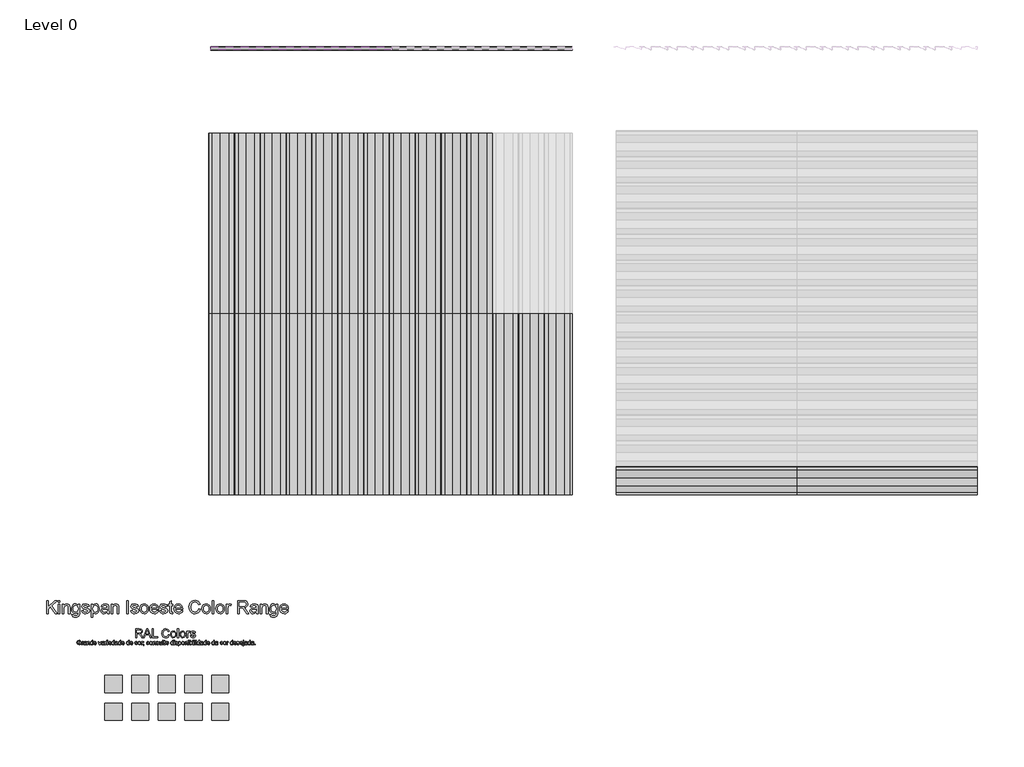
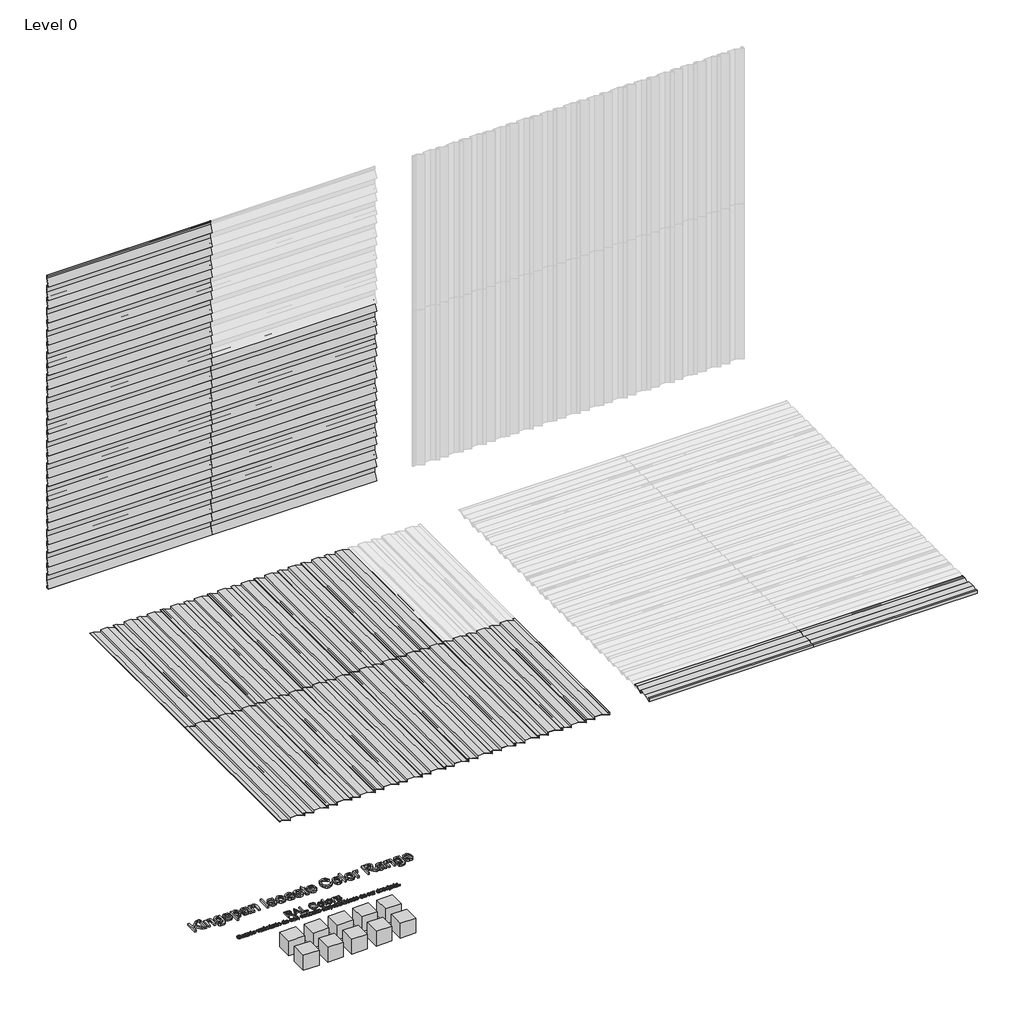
# One storey, part 1 of 2: 60 proxies.
"""IFC4 building model written with IfcOpenShell, lengths in millimetres."""

from ifc_helpers import new_model, si_unit, origin, place, context, project, spatial, transform, mapped, element, save
from components import proxy_32_ks_iso_colour_range_8220f766, proxy_32_ks_iso_colour_range_06d69407, ks_colour_sample_ks_colour_sample_0243efec, ps4_0_standard_panel_ns_dd7b3ee9, ps4_0_standard_panel_ns_3b503408

model = new_model("IFC4")

# Units and contexts
model_context = context("Model", 3, world=origin())
ifc_project = project(units=[si_unit("LENGTHUNIT", "METRE", prefix="MILLI")], contexts=[model_context])

# Site, building, storey
site = spatial("IfcSite", under=ifc_project)
building = spatial("IfcBuilding", under=site)
storey = spatial("IfcBuildingStorey", under=building, Name="Level 0", Elevation=0.0)

# Proxies
placement = place(None, origin())
proxy_32_ks_iso_colour_range_shape = proxy_32_ks_iso_colour_range_8220f766(model_context)
proxy_32_ks_iso_colour_range_2_shape = proxy_32_ks_iso_colour_range_06d69407(model_context)
element("IfcBuildingElementProxy", 1, Name="32-KS-ISO-Colour Range : Kingspan Isoeste Color Range", ObjectType="32-KS-ISO-Colour Range : Kingspan Isoeste Color Range", at=placement, inside=storey, context=model_context, shape_type="MappedRepresentation", body=[
    mapped(proxy_32_ks_iso_colour_range_shape, transform((-3929.8390717, -2223.0925896, 0.0), x_axis=(1.0, 0.0, 0.0), y_axis=(0.0, 1.0, 0.0), z_axis=(0.0, 0.0, 1.0))),
    mapped(proxy_32_ks_iso_colour_range_2_shape, transform((-3929.8390717, -2223.0925896, 0.0), x_axis=(1.0, 0.0, 0.0), y_axis=(0.0, 1.0, 0.0), z_axis=(0.0, 0.0, 1.0))),
])
ks_colour_sample_ks_colour_sample_shape = ks_colour_sample_ks_colour_sample_0243efec(model_context)
element("IfcBuildingElementProxy", 2, Name="KS_Colour Sample : KS_Colour Sample", ObjectType="KS_Colour Sample : KS_Colour Sample", at=placement, inside=storey, context=model_context, shape_type="MappedRepresentation", body=[
    mapped(ks_colour_sample_ks_colour_sample_shape, transform((-3309.8390717, -2663.0925896, 0.0), x_axis=(1.0, 0.0, 0.0), y_axis=(0.0, 1.0, 0.0), z_axis=(0.0, 0.0, 1.0))),
])
element("IfcBuildingElementProxy", 3, Name="KS_Colour Sample : KS_Colour Sample", ObjectType="KS_Colour Sample : KS_Colour Sample", at=placement, inside=storey, context=model_context, shape_type="MappedRepresentation", body=[
    mapped(ks_colour_sample_ks_colour_sample_shape, transform((-3309.8390717, -2343.0925896, 0.0), x_axis=(1.0, 0.0, 0.0), y_axis=(0.0, 1.0, 0.0), z_axis=(0.0, 0.0, 1.0))),
])
element("IfcBuildingElementProxy", 4, Name="KS_Colour Sample : KS_Colour Sample", ObjectType="KS_Colour Sample : KS_Colour Sample", at=placement, inside=storey, context=model_context, shape_type="MappedRepresentation", body=[
    mapped(ks_colour_sample_ks_colour_sample_shape, transform((-4549.8390717, -2663.0925896, 0.0), x_axis=(1.0, 0.0, 0.0), y_axis=(0.0, 1.0, 0.0), z_axis=(0.0, 0.0, 1.0))),
])
element("IfcBuildingElementProxy", 5, Name="KS_Colour Sample : KS_Colour Sample", ObjectType="KS_Colour Sample : KS_Colour Sample", at=placement, inside=storey, context=model_context, shape_type="MappedRepresentation", body=[
    mapped(ks_colour_sample_ks_colour_sample_shape, transform((-4239.8390717, -2663.0925896, 0.0), x_axis=(1.0, 0.0, 0.0), y_axis=(0.0, 1.0, 0.0), z_axis=(0.0, 0.0, 1.0))),
])
element("IfcBuildingElementProxy", 6, Name="KS_Colour Sample : KS_Colour Sample", ObjectType="KS_Colour Sample : KS_Colour Sample", at=placement, inside=storey, context=model_context, shape_type="MappedRepresentation", body=[
    mapped(ks_colour_sample_ks_colour_sample_shape, transform((-3619.8390717, -2663.0925896, 0.0), x_axis=(1.0, 0.0, 0.0), y_axis=(0.0, 1.0, 0.0), z_axis=(0.0, 0.0, 1.0))),
])
element("IfcBuildingElementProxy", 7, Name="KS_Colour Sample : KS_Colour Sample", ObjectType="KS_Colour Sample : KS_Colour Sample", at=placement, inside=storey, context=model_context, shape_type="MappedRepresentation", body=[
    mapped(ks_colour_sample_ks_colour_sample_shape, transform((-4549.8390717, -2343.0925896, 0.0), x_axis=(1.0, 0.0, 0.0), y_axis=(0.0, 1.0, 0.0), z_axis=(0.0, 0.0, 1.0))),
])
element("IfcBuildingElementProxy", 8, Name="KS_Colour Sample : KS_Colour Sample", ObjectType="KS_Colour Sample : KS_Colour Sample", at=placement, inside=storey, context=model_context, shape_type="MappedRepresentation", body=[
    mapped(ks_colour_sample_ks_colour_sample_shape, transform((-4239.8390717, -2343.0925896, 0.0), x_axis=(1.0, 0.0, 0.0), y_axis=(0.0, 1.0, 0.0), z_axis=(0.0, 0.0, 1.0))),
])
element("IfcBuildingElementProxy", 9, Name="KS_Colour Sample : KS_Colour Sample", ObjectType="KS_Colour Sample : KS_Colour Sample", at=placement, inside=storey, context=model_context, shape_type="MappedRepresentation", body=[
    mapped(ks_colour_sample_ks_colour_sample_shape, transform((-3619.8390717, -2343.0925896, 0.0), x_axis=(1.0, 0.0, 0.0), y_axis=(0.0, 1.0, 0.0), z_axis=(0.0, 0.0, 1.0))),
])
element("IfcBuildingElementProxy", 10, Name="KS_Colour Sample : KS_Colour Sample", ObjectType="KS_Colour Sample : KS_Colour Sample", at=placement, inside=storey, context=model_context, shape_type="MappedRepresentation", body=[
    mapped(ks_colour_sample_ks_colour_sample_shape, transform((-3929.8390717, -2343.0925896, 0.0), x_axis=(1.0, 0.0, 0.0), y_axis=(0.0, 1.0, 0.0), z_axis=(0.0, 0.0, 1.0))),
])
element("IfcBuildingElementProxy", 11, Name="KS_Colour Sample : KS_Colour Sample", ObjectType="KS_Colour Sample : KS_Colour Sample", at=placement, inside=storey, context=model_context, shape_type="MappedRepresentation", body=[
    mapped(ks_colour_sample_ks_colour_sample_shape, transform((-3929.8390717, -2663.0925896, 0.0), x_axis=(1.0, 0.0, 0.0), y_axis=(0.0, 1.0, 0.0), z_axis=(0.0, 0.0, 1.0))),
])
ps4_0_standard_panel_ns_shape = ps4_0_standard_panel_ns_dd7b3ee9(model_context)
element("IfcBuildingElementProxy", 12, Name="PS4.0 : Standard Panel_NS", ObjectType="PS4.0 : Standard Panel_NS", at=placement, inside=storey, context=model_context, shape_type="MappedRepresentation", body=[
    mapped(ps4_0_standard_panel_ns_shape, transform((-3417.7637295, 5063.0274074, 1200.0), x_axis=(1.0, 0.0, 0.0), y_axis=(0.0, 0.0, 1.0), z_axis=(0.0, -1.0, 0.0))),
])
element("IfcBuildingElementProxy", 13, Name="PS4.0 : Standard Panel_NS", ObjectType="PS4.0 : Standard Panel_NS", at=placement, inside=storey, context=model_context, shape_type="MappedRepresentation", body=[
    mapped(ps4_0_standard_panel_ns_shape, transform((-3417.7637295, 5063.0274074, 3600.0), x_axis=(1.0, 0.0, 0.0), y_axis=(0.0, 0.0, 1.0), z_axis=(0.0, -1.0, 0.0))),
])
element("IfcBuildingElementProxy", 14, Name="PS4.0 : Standard Panel_NS", ObjectType="PS4.0 : Standard Panel_NS", at=placement, inside=storey, context=model_context, shape_type="MappedRepresentation", body=[
    mapped(ps4_0_standard_panel_ns_shape, transform((-1317.7637295, 5063.0274074, 1200.0), x_axis=(1.0, 0.0, 0.0), y_axis=(0.0, 0.0, 1.0), z_axis=(0.0, -1.0, 0.0))),
])
ps4_0_standard_panel_ns_2_shape = ps4_0_standard_panel_ns_3b503408(model_context)
element("IfcBuildingElementProxy", 15, Name="PS4.0 : Standard Panel_NS", ObjectType="PS4.0 : Standard Panel_NS", at=placement, inside=storey, context=model_context, shape_type="MappedRepresentation", body=[
    mapped(ps4_0_standard_panel_ns_2_shape, transform((-417.7637297, -141.6886547, 0.0), x_axis=(0.0, 1.0, 0.0), y_axis=(-1.0, 0.0, 0.0), z_axis=(0.0, 0.0, 1.0))),
])
element("IfcBuildingElementProxy", 16, Name="PS4.0 : Standard Panel_NS", ObjectType="PS4.0 : Standard Panel_NS", at=placement, inside=storey, context=model_context, shape_type="MappedRepresentation", body=[
    mapped(ps4_0_standard_panel_ns_2_shape, transform((-2817.7637297, -141.6886547, 0.0), x_axis=(0.0, 1.0, 0.0), y_axis=(-1.0, 0.0, 0.0), z_axis=(0.0, 0.0, 1.0))),
])
element("IfcBuildingElementProxy", 17, Name="PS4.0 : Standard Panel_NS", ObjectType="PS4.0 : Standard Panel_NS", at=placement, inside=storey, context=model_context, shape_type="MappedRepresentation", body=[
    mapped(ps4_0_standard_panel_ns_2_shape, transform((-2817.7637297, 1958.3113453, 0.0), x_axis=(0.0, 1.0, 0.0), y_axis=(-1.0, 0.0, 0.0), z_axis=(0.0, 0.0, 1.0))),
])
element("IfcBuildingElementProxy", 18, Name="PS4.0 : Standard Panel_NS", ObjectType="PS4.0 : Standard Panel_NS", at=placement, inside=storey, context=model_context, shape_type="MappedRepresentation", body=[
    mapped(ps4_0_standard_panel_ns_2_shape, transform((-417.7637297, 1958.3113453, 0.0), x_axis=(0.0, 1.0, 0.0), y_axis=(-1.0, 0.0, 0.0), z_axis=(0.0, 0.0, 1.0))),
])
element("IfcBuildingElementProxy", 19, Name="PS4.0 : Standard Panel_NS", ObjectType="PS4.0 : Standard Panel_NS", at=placement, inside=storey, context=model_context, shape_type="MappedRepresentation", body=[
    mapped(ps4_0_standard_panel_ns_shape, transform((-3417.7637295, 5063.0274074, 0.0), x_axis=(1.0, 0.0, 0.0), y_axis=(0.0, 0.0, 1.0), z_axis=(0.0, -1.0, 0.0))),
])
element("IfcBuildingElementProxy", 20, Name="PS4.0 : Standard Panel_NS", ObjectType="PS4.0 : Standard Panel_NS", at=placement, inside=storey, context=model_context, shape_type="MappedRepresentation", body=[
    mapped(ps4_0_standard_panel_ns_shape, transform((-3417.7637295, 5063.0274074, 2400.0), x_axis=(1.0, 0.0, 0.0), y_axis=(0.0, 0.0, 1.0), z_axis=(0.0, -1.0, 0.0))),
])
element("IfcBuildingElementProxy", 21, Name="PS4.0 : Standard Panel_NS", ObjectType="PS4.0 : Standard Panel_NS", at=placement, inside=storey, context=model_context, shape_type="MappedRepresentation", body=[
    mapped(ps4_0_standard_panel_ns_shape, transform((-1317.7637295, 5063.0274074, 0.0), x_axis=(1.0, 0.0, 0.0), y_axis=(0.0, 0.0, 1.0), z_axis=(0.0, -1.0, 0.0))),
])
element("IfcBuildingElementProxy", 22, Name="PS4.0 : Standard Panel_NS", ObjectType="PS4.0 : Standard Panel_NS", at=placement, inside=storey, context=model_context, shape_type="MappedRepresentation", body=[
    mapped(ps4_0_standard_panel_ns_2_shape, transform((-1617.7637297, -141.6886547, 0.0), x_axis=(0.0, 1.0, 0.0), y_axis=(-1.0, 0.0, 0.0), z_axis=(0.0, 0.0, 1.0))),
])
element("IfcBuildingElementProxy", 23, Name="PS4.0 : Standard Panel_NS", ObjectType="PS4.0 : Standard Panel_NS", at=placement, inside=storey, context=model_context, shape_type="MappedRepresentation", body=[
    mapped(ps4_0_standard_panel_ns_2_shape, transform((1289.7088668, -141.6886547, 0.0), x_axis=(1.0, 0.0, 0.0), y_axis=(0.0, 1.0, 0.0), z_axis=(0.0, 0.0, 1.0))),
])
element("IfcBuildingElementProxy", 24, Name="PS4.0 : Standard Panel_NS", ObjectType="PS4.0 : Standard Panel_NS", at=placement, inside=storey, context=model_context, shape_type="MappedRepresentation", body=[
    mapped(ps4_0_standard_panel_ns_2_shape, transform((-1617.7637297, 1958.3113453, 0.0), x_axis=(0.0, 1.0, 0.0), y_axis=(-1.0, 0.0, 0.0), z_axis=(0.0, 0.0, 1.0))),
])
element("IfcBuildingElementProxy", 25, Name="PS4.0 : Standard Panel_NS", ObjectType="PS4.0 : Standard Panel_NS", at=placement, inside=storey, context=model_context, shape_type="MappedRepresentation", body=[
    mapped(ps4_0_standard_panel_ns_2_shape, transform((3389.7088668, -141.6886547, 0.0), x_axis=(1.0, 0.0, 0.0), y_axis=(0.0, 1.0, 0.0), z_axis=(0.0, 0.0, 1.0))),
])
element("IfcBuildingElementProxy", 26, Name="PS4.0 : Standard Panel_NS", ObjectType="PS4.0 : Standard Panel_NS", at=placement, inside=storey, context=model_context, shape_type="MappedRepresentation", body=[
    mapped(ps4_0_standard_panel_ns_2_shape, transform((782.2362705, -141.6886547, 0.0), x_axis=(0.0, 1.0, 0.0), y_axis=(-1.0, 0.0, 0.0), z_axis=(0.0, 0.0, 1.0))),
])
element("IfcBuildingElementProxy", 27, Name="PS4.0 : Standard Panel_NS", ObjectType="PS4.0 : Standard Panel_NS", at=placement, inside=storey, context=model_context, shape_type="MappedRepresentation", body=[
    mapped(ps4_0_standard_panel_ns_2_shape, transform((-3117.7637295, -141.6886547, 0.0), x_axis=(0.0, 1.0, 0.0), y_axis=(-1.0, 0.0, 0.0), z_axis=(0.0, 0.0, 1.0))),
])
element("IfcBuildingElementProxy", 28, Name="PS4.0 : Standard Panel_NS", ObjectType="PS4.0 : Standard Panel_NS", at=placement, inside=storey, context=model_context, shape_type="MappedRepresentation", body=[
    mapped(ps4_0_standard_panel_ns_2_shape, transform((-717.7637297, -141.6886547, 0.0), x_axis=(0.0, 1.0, 0.0), y_axis=(-1.0, 0.0, 0.0), z_axis=(0.0, 0.0, 1.0))),
])
element("IfcBuildingElementProxy", 29, Name="PS4.0 : Standard Panel_NS", ObjectType="PS4.0 : Standard Panel_NS", at=placement, inside=storey, context=model_context, shape_type="MappedRepresentation", body=[
    mapped(ps4_0_standard_panel_ns_2_shape, transform((-3117.7637295, 1958.3113453, 0.0), x_axis=(0.0, 1.0, 0.0), y_axis=(-1.0, 0.0, 0.0), z_axis=(0.0, 0.0, 1.0))),
])
element("IfcBuildingElementProxy", 30, Name="PS4.0 : Standard Panel_NS", ObjectType="PS4.0 : Standard Panel_NS", at=placement, inside=storey, context=model_context, shape_type="MappedRepresentation", body=[
    mapped(ps4_0_standard_panel_ns_2_shape, transform((-717.7637297, 1958.3113453, 0.0), x_axis=(0.0, 1.0, 0.0), y_axis=(-1.0, 0.0, 0.0), z_axis=(0.0, 0.0, 1.0))),
])
element("IfcBuildingElementProxy", 31, Name="PS4.0 : Standard Panel_NS", ObjectType="PS4.0 : Standard Panel_NS", at=placement, inside=storey, context=model_context, shape_type="MappedRepresentation", body=[
    mapped(ps4_0_standard_panel_ns_shape, transform((-3417.7637295, 5063.0274074, 1500.0), x_axis=(1.0, 0.0, 0.0), y_axis=(0.0, 0.0, 1.0), z_axis=(0.0, -1.0, 0.0))),
])
element("IfcBuildingElementProxy", 32, Name="PS4.0 : Standard Panel_NS", ObjectType="PS4.0 : Standard Panel_NS", at=placement, inside=storey, context=model_context, shape_type="MappedRepresentation", body=[
    mapped(ps4_0_standard_panel_ns_shape, transform((-3417.7637295, 5063.0274074, 3900.0), x_axis=(1.0, 0.0, 0.0), y_axis=(0.0, 0.0, 1.0), z_axis=(0.0, -1.0, 0.0))),
])
element("IfcBuildingElementProxy", 33, Name="PS4.0 : Standard Panel_NS", ObjectType="PS4.0 : Standard Panel_NS", at=placement, inside=storey, context=model_context, shape_type="MappedRepresentation", body=[
    mapped(ps4_0_standard_panel_ns_shape, transform((-1317.7637295, 5063.0274074, 1500.0), x_axis=(1.0, 0.0, 0.0), y_axis=(0.0, 0.0, 1.0), z_axis=(0.0, -1.0, 0.0))),
])
element("IfcBuildingElementProxy", 34, Name="PS4.0 : Standard Panel_NS", ObjectType="PS4.0 : Standard Panel_NS", at=placement, inside=storey, context=model_context, shape_type="MappedRepresentation", body=[
    mapped(ps4_0_standard_panel_ns_shape, transform((-3417.7637295, 5063.0274074, 300.0), x_axis=(1.0, 0.0, 0.0), y_axis=(0.0, 0.0, 1.0), z_axis=(0.0, -1.0, 0.0))),
])
element("IfcBuildingElementProxy", 35, Name="PS4.0 : Standard Panel_NS", ObjectType="PS4.0 : Standard Panel_NS", at=placement, inside=storey, context=model_context, shape_type="MappedRepresentation", body=[
    mapped(ps4_0_standard_panel_ns_shape, transform((-3417.7637295, 5063.0274074, 2700.0), x_axis=(1.0, 0.0, 0.0), y_axis=(0.0, 0.0, 1.0), z_axis=(0.0, -1.0, 0.0))),
])
element("IfcBuildingElementProxy", 36, Name="PS4.0 : Standard Panel_NS", ObjectType="PS4.0 : Standard Panel_NS", at=placement, inside=storey, context=model_context, shape_type="MappedRepresentation", body=[
    mapped(ps4_0_standard_panel_ns_shape, transform((-1317.7637295, 5063.0274074, 300.0), x_axis=(1.0, 0.0, 0.0), y_axis=(0.0, 0.0, 1.0), z_axis=(0.0, -1.0, 0.0))),
])
element("IfcBuildingElementProxy", 37, Name="PS4.0 : Standard Panel_NS", ObjectType="PS4.0 : Standard Panel_NS", at=placement, inside=storey, context=model_context, shape_type="MappedRepresentation", body=[
    mapped(ps4_0_standard_panel_ns_shape, transform((-3417.7637295, 5063.0274074, 600.0), x_axis=(1.0, 0.0, 0.0), y_axis=(0.0, 0.0, 1.0), z_axis=(0.0, -1.0, 0.0))),
])
element("IfcBuildingElementProxy", 38, Name="PS4.0 : Standard Panel_NS", ObjectType="PS4.0 : Standard Panel_NS", at=placement, inside=storey, context=model_context, shape_type="MappedRepresentation", body=[
    mapped(ps4_0_standard_panel_ns_shape, transform((-3417.7637295, 5063.0274074, 3000.0), x_axis=(1.0, 0.0, 0.0), y_axis=(0.0, 0.0, 1.0), z_axis=(0.0, -1.0, 0.0))),
])
element("IfcBuildingElementProxy", 39, Name="PS4.0 : Standard Panel_NS", ObjectType="PS4.0 : Standard Panel_NS", at=placement, inside=storey, context=model_context, shape_type="MappedRepresentation", body=[
    mapped(ps4_0_standard_panel_ns_shape, transform((-1317.7637295, 5063.0274074, 600.0), x_axis=(1.0, 0.0, 0.0), y_axis=(0.0, 0.0, 1.0), z_axis=(0.0, -1.0, 0.0))),
])
element("IfcBuildingElementProxy", 40, Name="PS4.0 : Standard Panel_NS", ObjectType="PS4.0 : Standard Panel_NS", at=placement, inside=storey, context=model_context, shape_type="MappedRepresentation", body=[
    mapped(ps4_0_standard_panel_ns_shape, transform((-3417.7637295, 5063.0274074, 900.0), x_axis=(1.0, 0.0, 0.0), y_axis=(0.0, 0.0, 1.0), z_axis=(0.0, -1.0, 0.0))),
])
element("IfcBuildingElementProxy", 41, Name="PS4.0 : Standard Panel_NS", ObjectType="PS4.0 : Standard Panel_NS", at=placement, inside=storey, context=model_context, shape_type="MappedRepresentation", body=[
    mapped(ps4_0_standard_panel_ns_shape, transform((-3417.7637295, 5063.0274074, 3300.0), x_axis=(1.0, 0.0, 0.0), y_axis=(0.0, 0.0, 1.0), z_axis=(0.0, -1.0, 0.0))),
])
element("IfcBuildingElementProxy", 42, Name="PS4.0 : Standard Panel_NS", ObjectType="PS4.0 : Standard Panel_NS", at=placement, inside=storey, context=model_context, shape_type="MappedRepresentation", body=[
    mapped(ps4_0_standard_panel_ns_shape, transform((-1317.7637295, 5063.0274074, 900.0), x_axis=(1.0, 0.0, 0.0), y_axis=(0.0, 0.0, 1.0), z_axis=(0.0, -1.0, 0.0))),
])
element("IfcBuildingElementProxy", 43, Name="PS4.0 : Standard Panel_NS", ObjectType="PS4.0 : Standard Panel_NS", at=placement, inside=storey, context=model_context, shape_type="MappedRepresentation", body=[
    mapped(ps4_0_standard_panel_ns_shape, transform((-3417.7637295, 5063.0274074, 1800.0), x_axis=(1.0, 0.0, 0.0), y_axis=(0.0, 0.0, 1.0), z_axis=(0.0, -1.0, 0.0))),
])
element("IfcBuildingElementProxy", 44, Name="PS4.0 : Standard Panel_NS", ObjectType="PS4.0 : Standard Panel_NS", at=placement, inside=storey, context=model_context, shape_type="MappedRepresentation", body=[
    mapped(ps4_0_standard_panel_ns_shape, transform((-1317.7637295, 5063.0274074, 1800.0), x_axis=(1.0, 0.0, 0.0), y_axis=(0.0, 0.0, 1.0), z_axis=(0.0, -1.0, 0.0))),
])
element("IfcBuildingElementProxy", 45, Name="PS4.0 : Standard Panel_NS", ObjectType="PS4.0 : Standard Panel_NS", at=placement, inside=storey, context=model_context, shape_type="MappedRepresentation", body=[
    mapped(ps4_0_standard_panel_ns_shape, transform((-3417.7637295, 5063.0274074, 2100.0), x_axis=(1.0, 0.0, 0.0), y_axis=(0.0, 0.0, 1.0), z_axis=(0.0, -1.0, 0.0))),
])
element("IfcBuildingElementProxy", 46, Name="PS4.0 : Standard Panel_NS", ObjectType="PS4.0 : Standard Panel_NS", at=placement, inside=storey, context=model_context, shape_type="MappedRepresentation", body=[
    mapped(ps4_0_standard_panel_ns_shape, transform((-1317.7637295, 5063.0274074, 2100.0), x_axis=(1.0, 0.0, 0.0), y_axis=(0.0, 0.0, 1.0), z_axis=(0.0, -1.0, 0.0))),
])
element("IfcBuildingElementProxy", 47, Name="PS4.0 : Standard Panel_NS", ObjectType="PS4.0 : Standard Panel_NS", at=placement, inside=storey, context=model_context, shape_type="MappedRepresentation", body=[
    mapped(ps4_0_standard_panel_ns_2_shape, transform((482.2362703, -141.6886547, 0.0), x_axis=(0.0, 1.0, 0.0), y_axis=(-1.0, 0.0, 0.0), z_axis=(0.0, 0.0, 1.0))),
])
element("IfcBuildingElementProxy", 48, Name="PS4.0 : Standard Panel_NS", ObjectType="PS4.0 : Standard Panel_NS", at=placement, inside=storey, context=model_context, shape_type="MappedRepresentation", body=[
    mapped(ps4_0_standard_panel_ns_2_shape, transform((-1917.7637297, -141.6886547, 0.0), x_axis=(0.0, 1.0, 0.0), y_axis=(-1.0, 0.0, 0.0), z_axis=(0.0, 0.0, 1.0))),
])
element("IfcBuildingElementProxy", 49, Name="PS4.0 : Standard Panel_NS", ObjectType="PS4.0 : Standard Panel_NS", at=placement, inside=storey, context=model_context, shape_type="MappedRepresentation", body=[
    mapped(ps4_0_standard_panel_ns_2_shape, transform((-1917.7637297, 1958.3113453, 0.0), x_axis=(0.0, 1.0, 0.0), y_axis=(-1.0, 0.0, 0.0), z_axis=(0.0, 0.0, 1.0))),
])
element("IfcBuildingElementProxy", 50, Name="PS4.0 : Standard Panel_NS", ObjectType="PS4.0 : Standard Panel_NS", at=placement, inside=storey, context=model_context, shape_type="MappedRepresentation", body=[
    mapped(ps4_0_standard_panel_ns_2_shape, transform((182.2362703, -141.6886547, 0.0), x_axis=(0.0, 1.0, 0.0), y_axis=(-1.0, 0.0, 0.0), z_axis=(0.0, 0.0, 1.0))),
])
element("IfcBuildingElementProxy", 51, Name="PS4.0 : Standard Panel_NS", ObjectType="PS4.0 : Standard Panel_NS", at=placement, inside=storey, context=model_context, shape_type="MappedRepresentation", body=[
    mapped(ps4_0_standard_panel_ns_2_shape, transform((-2217.7637297, -141.6886547, 0.0), x_axis=(0.0, 1.0, 0.0), y_axis=(-1.0, 0.0, 0.0), z_axis=(0.0, 0.0, 1.0))),
])
element("IfcBuildingElementProxy", 52, Name="PS4.0 : Standard Panel_NS", ObjectType="PS4.0 : Standard Panel_NS", at=placement, inside=storey, context=model_context, shape_type="MappedRepresentation", body=[
    mapped(ps4_0_standard_panel_ns_2_shape, transform((-2217.7637297, 1958.3113453, 0.0), x_axis=(0.0, 1.0, 0.0), y_axis=(-1.0, 0.0, 0.0), z_axis=(0.0, 0.0, 1.0))),
])
element("IfcBuildingElementProxy", 53, Name="PS4.0 : Standard Panel_NS", ObjectType="PS4.0 : Standard Panel_NS", at=placement, inside=storey, context=model_context, shape_type="MappedRepresentation", body=[
    mapped(ps4_0_standard_panel_ns_2_shape, transform((-117.7637297, -141.6886547, 0.0), x_axis=(0.0, 1.0, 0.0), y_axis=(-1.0, 0.0, 0.0), z_axis=(0.0, 0.0, 1.0))),
])
element("IfcBuildingElementProxy", 54, Name="PS4.0 : Standard Panel_NS", ObjectType="PS4.0 : Standard Panel_NS", at=placement, inside=storey, context=model_context, shape_type="MappedRepresentation", body=[
    mapped(ps4_0_standard_panel_ns_2_shape, transform((-2517.7637297, -141.6886547, 0.0), x_axis=(0.0, 1.0, 0.0), y_axis=(-1.0, 0.0, 0.0), z_axis=(0.0, 0.0, 1.0))),
])
element("IfcBuildingElementProxy", 55, Name="PS4.0 : Standard Panel_NS", ObjectType="PS4.0 : Standard Panel_NS", at=placement, inside=storey, context=model_context, shape_type="MappedRepresentation", body=[
    mapped(ps4_0_standard_panel_ns_2_shape, transform((-2517.7637297, 1958.3113453, 0.0), x_axis=(0.0, 1.0, 0.0), y_axis=(-1.0, 0.0, 0.0), z_axis=(0.0, 0.0, 1.0))),
])
element("IfcBuildingElementProxy", 56, Name="PS4.0 : Standard Panel_NS", ObjectType="PS4.0 : Standard Panel_NS", at=placement, inside=storey, context=model_context, shape_type="MappedRepresentation", body=[
    mapped(ps4_0_standard_panel_ns_2_shape, transform((-117.7637297, 1958.3113453, 0.0), x_axis=(0.0, 1.0, 0.0), y_axis=(-1.0, 0.0, 0.0), z_axis=(0.0, 0.0, 1.0))),
])
element("IfcBuildingElementProxy", 57, Name="PS4.0 : Standard Panel_NS", ObjectType="PS4.0 : Standard Panel_NS", at=placement, inside=storey, context=model_context, shape_type="MappedRepresentation", body=[
    mapped(ps4_0_standard_panel_ns_2_shape, transform((-1017.7637297, -141.6886547, 0.0), x_axis=(0.0, 1.0, 0.0), y_axis=(-1.0, 0.0, 0.0), z_axis=(0.0, 0.0, 1.0))),
])
element("IfcBuildingElementProxy", 58, Name="PS4.0 : Standard Panel_NS", ObjectType="PS4.0 : Standard Panel_NS", at=placement, inside=storey, context=model_context, shape_type="MappedRepresentation", body=[
    mapped(ps4_0_standard_panel_ns_2_shape, transform((-1017.7637297, 1958.3113453, 0.0), x_axis=(0.0, 1.0, 0.0), y_axis=(-1.0, 0.0, 0.0), z_axis=(0.0, 0.0, 1.0))),
])
element("IfcBuildingElementProxy", 59, Name="PS4.0 : Standard Panel_NS", ObjectType="PS4.0 : Standard Panel_NS", at=placement, inside=storey, context=model_context, shape_type="MappedRepresentation", body=[
    mapped(ps4_0_standard_panel_ns_2_shape, transform((-1317.7637297, -141.6886547, 0.0), x_axis=(0.0, 1.0, 0.0), y_axis=(-1.0, 0.0, 0.0), z_axis=(0.0, 0.0, 1.0))),
])
element("IfcBuildingElementProxy", 60, Name="PS4.0 : Standard Panel_NS", ObjectType="PS4.0 : Standard Panel_NS", at=placement, inside=storey, context=model_context, shape_type="MappedRepresentation", body=[
    mapped(ps4_0_standard_panel_ns_2_shape, transform((-1317.7637297, 1958.3113453, 0.0), x_axis=(0.0, 1.0, 0.0), y_axis=(-1.0, 0.0, 0.0), z_axis=(0.0, 0.0, 1.0))),
])

save(model, "model.ifc")
